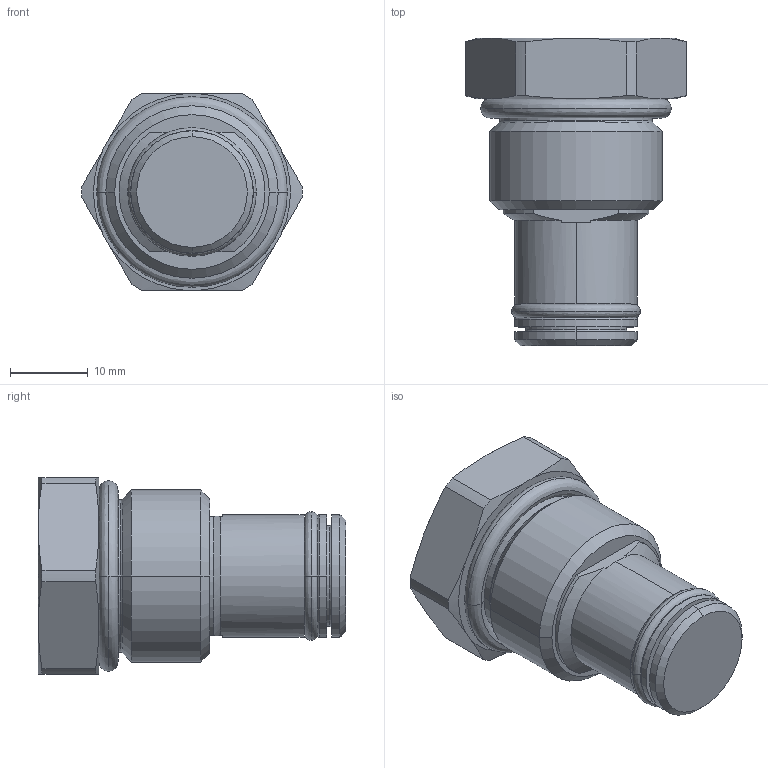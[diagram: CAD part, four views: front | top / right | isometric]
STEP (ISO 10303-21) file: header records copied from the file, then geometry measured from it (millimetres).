
FILE_DESCRIPTION((''),'2;1');
FILE_NAME('5201000_SW0001','2009-01-29T',('JCS'),(''),'PRO/ENGINEER BY PARAMETRIC TECHNOLOGY CORPORATION, 2008010','PRO/ENGINEER BY PARAMETRIC TECHNOLOGY CORPORATION, 2008010','');
FILE_SCHEMA(('CONFIG_CONTROL_DESIGN'));
Length unit declared in the file: inch
Products named in the file (1): 5201000_SW0001
Bounding box: 28.44 x 39.65 x 25.34 mm (x, y, z)
Volume: 12790.5 mm3; surface area: 5101.2 mm2
Topology: 4 solids, 5 shells, 93 faces, 212 edges, 128 vertices
Faces by surface type: cylinder 24, cone 20, plane 19, revolution 16, torus 14
Entity records: 2980 total; most frequent: CARTESIAN_POINT 841, DIRECTION 448, ORIENTED_EDGE 424, EDGE_CURVE 212, AXIS2_PLACEMENT_3D 187, VERTEX_POINT 128, CIRCLE 110, EDGE_LOOP 98
